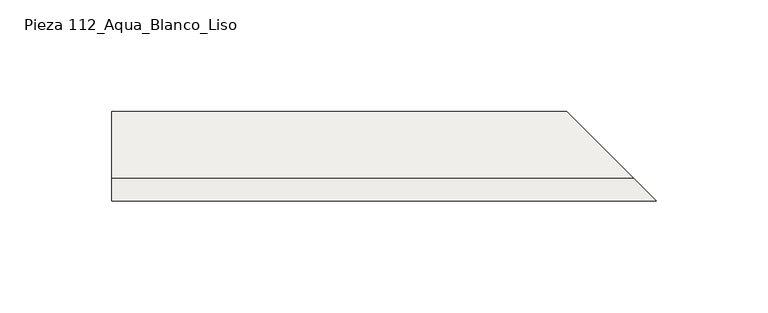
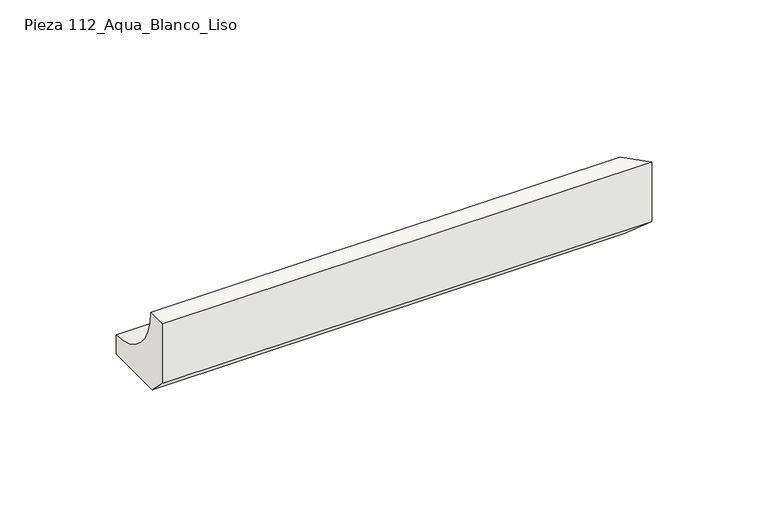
"""IFC4 building model written with IfcOpenShell, lengths in millimetres: slab geometry, ROSA GRES_112 (corte) : Pieza 112_Aqua_Blanco_Liso."""

from ifc_helpers import new_model, si_unit, frame, origin, place, context, project, spatial, polyline, circle_curve, ellipse_curve, source, transform, mapped, element, save
from ifc_brep_helpers import plane_surface, revolved_surface, advanced_brep


def pieza_112_aqua_blanco_liso_81c370b3(model_context):
    return source(origin(), model_context, "Body", "AdvancedBrep", [
        advanced_brep(
        [(0.0, 0.0, 8.7114978), (0.0, 0.0, 40.0), (0.0, 9.9734114, 40.0), (0.0, 40.0, 9.9734114), (0.0, 40.0, 0.0), (0.0, 8.7114978, 0.0), (243.5, 0.0, 8.7114978), (243.5, 0.0, 40.0), (233.5265886, 9.9734114, 40.0), (203.5, 40.0, 9.9734114), (203.5, 40.0, 0.0), (234.7885022, 8.7114978, 0.0)],
        [
            (0, 1),
            (1, 2),
            (2, 3, circle_curve(frame((0.0, 39.9955547, 39.9955547), z_axis=(1.0, 0.0, 0.0), x_axis=(0.0, 1.0, 0.0)), 30.0221435)),
            (3, 4),
            (4, 5),
            (5, 0),
            (0, 6),
            (6, 7),
            (7, 1),
            (7, 8),
            (8, 2),
            (8, 9, ellipse_curve(frame((203.5044453, 39.9955547, 39.9955547), z_axis=(0.7071067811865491, 0.707106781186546, 0.0), x_axis=(0.7071067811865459, -0.7071067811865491, 0.0)), 42.4577226, 30.0221435)),
            (9, 3),
            (9, 10),
            (10, 4),
            (10, 11),
            (11, 5),
            (11, 6),
        ],
        [
            plane_surface(frame((0.0, 0.0, 0.0), z_axis=(-1.0, 0.0, 0.0), x_axis=(0.0, 0.0, 1.0))),
            plane_surface(frame((0.0, 0.0, 8.7114978), z_axis=(0.0, -1.0, 0.0), x_axis=(1.0, 0.0, 0.0))),
            plane_surface(frame((0.0, 0.0, 40.0), z_axis=(0.0, 0.0, 1.0), x_axis=(1.0, 0.0, 0.0))),
            revolved_surface(polyline([(233.52658886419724, 70.0176982, 39.9955547), (0.0, 70.0176982, 39.9955547)]), (0.0, 39.9955547, 39.9955547), (1.0, 0.0, 0.0)),
            plane_surface(frame((0.0, 40.0, 9.9734114), z_axis=(0.0, 1.0, 0.0), x_axis=(1.0, 0.0, 0.0))),
            plane_surface(frame((0.0, 40.0, 0.0), z_axis=(0.0, 0.0, -1.0), x_axis=(1.0, 0.0, 0.0))),
            plane_surface(frame((0.0, 8.7114978, 0.0), z_axis=(0.0, -0.707106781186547, -0.7071067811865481), x_axis=(1.0, 0.0, 0.0))),
            plane_surface(frame((203.0, 40.5, 104.9871832), z_axis=(0.7071067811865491, 0.707106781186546, 0.0), x_axis=(0.0, 0.0, -1.0))),
        ],
        [
            (0, [[1, 2, 3, 4, 5, 6]]),
            (1, [[-1, 7, 8, 9]]),
            (2, [[-2, -9, 10, 11]]),
            (3, [[-3, -11, 12, 13]]),
            (4, [[-4, -13, 14, 15]]),
            (5, [[-5, -15, 16, 17]]),
            (6, [[-6, -17, 18, -7]]),
            (7, [[-8, -18, -16, -14, -12, -10]]),
        ],
    ),
    ])


if __name__ == "__main__":
    model = new_model("IFC4")
    model_context = context("Model", 3, world=origin())
    ifc_project = project(units=[si_unit("LENGTHUNIT", "METRE", prefix="MILLI")], contexts=[model_context])
    site = spatial("IfcSite", under=ifc_project)
    building = spatial("IfcBuilding", under=site)
    placement = place(None, origin())
    pieza_112_aqua_blanco_liso_shape = pieza_112_aqua_blanco_liso_81c370b3(model_context)
    element("IfcSlab", 1, ObjectType="ROSA GRES_112 (corte) : Pieza 112_Aqua_Blanco_Liso", at=placement, inside=building, context=model_context, shape_type="MappedRepresentation", body=[
        mapped(pieza_112_aqua_blanco_liso_shape, transform((0.0, 0.0, 0.0), x_axis=(1.0, 0.0, 0.0), y_axis=(0.0, 1.0, 0.0), z_axis=(0.0, 0.0, 1.0))),
    ])
    save(model, "model.ifc")
